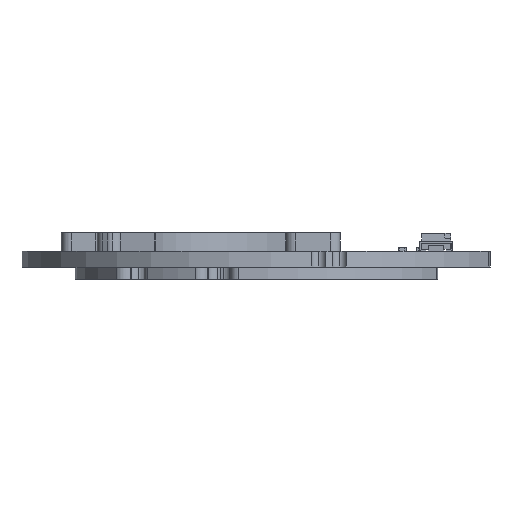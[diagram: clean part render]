
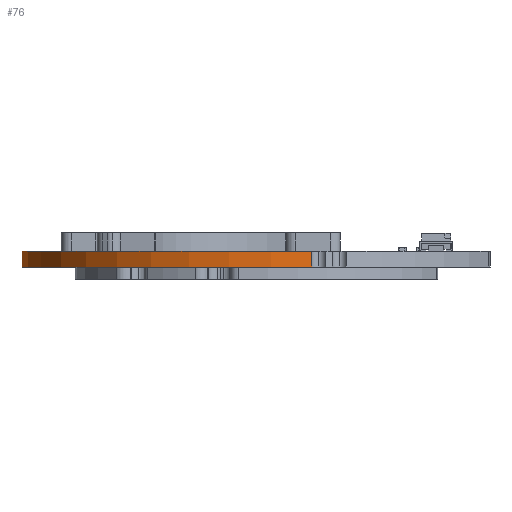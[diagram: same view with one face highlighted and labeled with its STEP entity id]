
A CAD part, left-side view. The second image highlights one B-rep face of the part: STEP entity #76.
In plain terms, the highlighted cylindrical face has radius 25 mm (diameter 50 mm), a partial arc.
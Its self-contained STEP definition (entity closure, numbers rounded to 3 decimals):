
#76 = ADVANCED_FACE ( 'NONE', ( #36757 ), #11960, .T. ) ;
#4931 = CIRCLE ( 'NONE', #41111, 25. ) ;
#6639 = VERTEX_POINT ( 'NONE', #30191 ) ;
#8148 = CARTESIAN_POINT ( 'NONE',  ( 26., 14., -1.6 ) ) ;
#8376 = CARTESIAN_POINT ( 'NONE',  ( 28.511, 38.874, -1.6 ) ) ;
#8967 = DIRECTION ( 'NONE',  ( 0.418, -0.909, 0. ) ) ;
#10501 = CARTESIAN_POINT ( 'NONE',  ( 1.44, 9.331, 0. ) ) ;
#11960 = CYLINDRICAL_SURFACE ( 'NONE', #20009, 25. ) ;
#12427 = DIRECTION ( 'NONE',  ( 0., 0., 1. ) ) ;
#13037 = CARTESIAN_POINT ( 'NONE',  ( 28.511, 38.874, -1.6 ) ) ;
#13181 = AXIS2_PLACEMENT_3D ( 'NONE', #15977, #19726, #52635 ) ;
#13887 = VECTOR ( 'NONE', #12427, 1000. ) ;
#15977 = CARTESIAN_POINT ( 'NONE',  ( 26., 14., -1.6 ) ) ;
#16315 = EDGE_CURVE ( 'NONE', #31890, #48599, #49060, .T. ) ;
#16441 = VERTEX_POINT ( 'NONE', #10501 ) ;
#17873 = EDGE_CURVE ( 'NONE', #31890, #6639, #33017, .T. ) ;
#19726 = DIRECTION ( 'NONE',  ( 0., 0., 1. ) ) ;
#20009 = AXIS2_PLACEMENT_3D ( 'NONE', #8148, #24622, #40291 ) ;
#21542 = ORIENTED_EDGE ( 'NONE', *, *, #31384, .T. ) ;
#23057 = ORIENTED_EDGE ( 'NONE', *, *, #16315, .F. ) ;
#23622 = EDGE_LOOP ( 'NONE', ( #27053, #21542, #25427, #23057 ) ) ;
#24336 = DIRECTION ( 'NONE',  ( 0., 0., 1. ) ) ;
#24622 = DIRECTION ( 'NONE',  ( 0., 0., -1. ) ) ;
#25427 = ORIENTED_EDGE ( 'NONE', *, *, #44580, .F. ) ;
#27053 = ORIENTED_EDGE ( 'NONE', *, *, #17873, .T. ) ;
#28955 = CARTESIAN_POINT ( 'NONE',  ( 26., 14., 0. ) ) ;
#30191 = CARTESIAN_POINT ( 'NONE',  ( 1.44, 9.331, -1.6 ) ) ;
#31384 = EDGE_CURVE ( 'NONE', #6639, #16441, #45571, .T. ) ;
#31890 = VERTEX_POINT ( 'NONE', #13037 ) ;
#33017 = CIRCLE ( 'NONE', #13181, 25. ) ;
#36757 = FACE_OUTER_BOUND ( 'NONE', #23622, .T. ) ;
#38841 = VECTOR ( 'NONE', #24336, 1000. ) ;
#40291 = DIRECTION ( 'NONE',  ( 0.418, -0.909, 0. ) ) ;
#40829 = CARTESIAN_POINT ( 'NONE',  ( 1.44, 9.331, -1.6 ) ) ;
#41103 = DIRECTION ( 'NONE',  ( 0., 0., 1. ) ) ;
#41111 = AXIS2_PLACEMENT_3D ( 'NONE', #28955, #41103, #8967 ) ;
#41555 = CARTESIAN_POINT ( 'NONE',  ( 28.511, 38.874, 0. ) ) ;
#44580 = EDGE_CURVE ( 'NONE', #48599, #16441, #4931, .T. ) ;
#45571 = LINE ( 'NONE', #40829, #38841 ) ;
#48599 = VERTEX_POINT ( 'NONE', #41555 ) ;
#49060 = LINE ( 'NONE', #8376, #13887 ) ;
#52635 = DIRECTION ( 'NONE',  ( 0.418, -0.909, 0. ) ) ;
